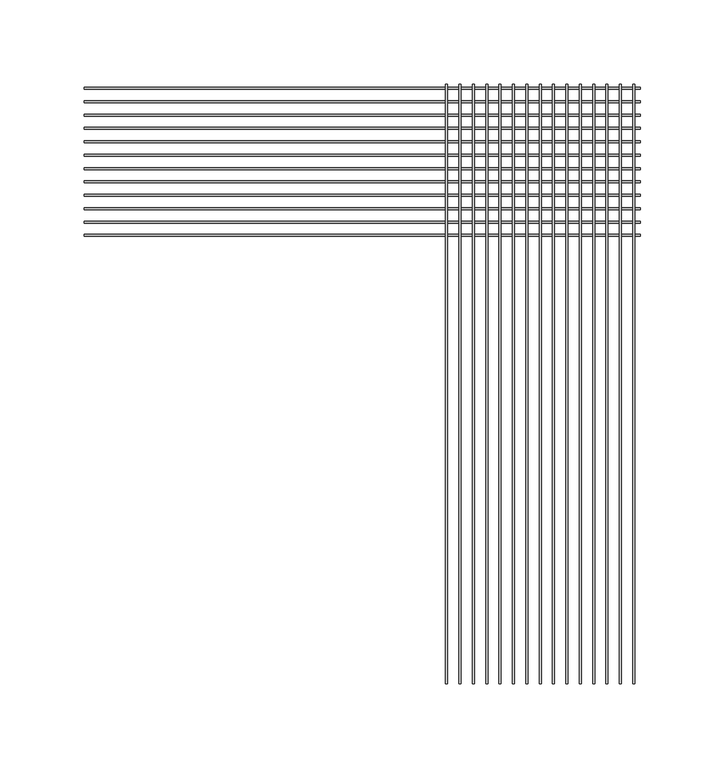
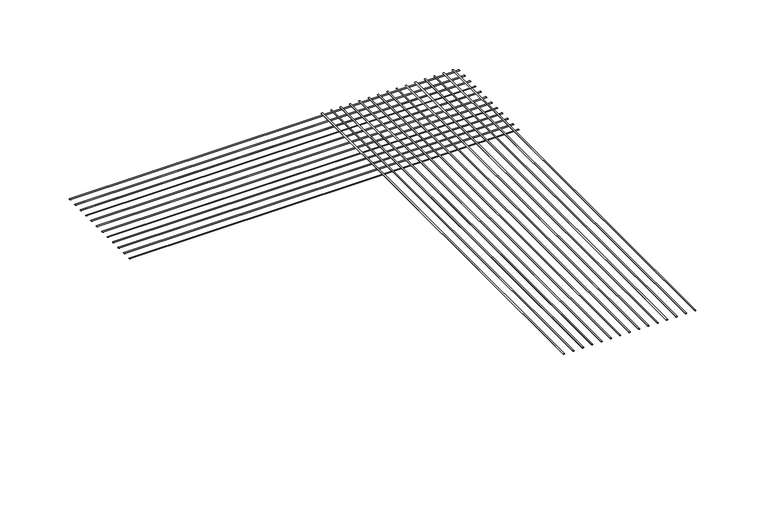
"""IFC4 building model written with IfcOpenShell, lengths in millimetres: proxy geometry, CRAi Generic Model Mesh Piece Face Based : CRAi Generic Model Mesh Piece Face Based."""

from ifc_helpers import new_model, si_unit, point, frame, origin, place, context, project, spatial, ellipse_curve, trimmed, source, transform, mapped, element, save
from ifc_brep_helpers import plane_surface, extruded_surface, advanced_brep


def generic_models_a7b0360c(model_context):
    return source(origin(), model_context, "Body", "AdvancedBrep", [
        advanced_brep(
        [(49.4109375, -177.8, -2.5796875), (50.6015625, -177.8, -2.5796875), (49.4109375, 177.8, -2.5796875), (50.6015625, 177.8, -2.5796875)],
        [
            (0, 1, ellipse_curve(frame((50.00625, -177.8, -2.5796875), z_axis=(0.0, -1.0, 0.0), x_axis=(1.0, 0.0, 0.0)), 0.5953125, 0.1984375)),
            (1, 0, ellipse_curve(frame((50.00625, -177.8, -2.5796875), z_axis=(0.0, -1.0, 0.0), x_axis=(1.0, 0.0, 0.0)), 0.5953125, 0.1984375)),
            (2, 3, ellipse_curve(frame((50.00625, 177.8, -2.5796875), z_axis=(0.0, 1.0, 0.0), x_axis=(1.0, 0.0, 0.0)), 0.5953125, 0.1984375)),
            (3, 2, ellipse_curve(frame((50.00625, 177.8, -2.5796875), z_axis=(0.0, 1.0, 0.0), x_axis=(1.0, 0.0, 0.0)), 0.5953125, 0.1984375)),
            (0, 2),
            (3, 1),
        ],
        [
            plane_surface(frame((50.00625, -177.8, -2.5796875), z_axis=(0.0, -1.0, 0.0), x_axis=(0.0, 0.0, 1.0))),
            plane_surface(frame((50.00625, 177.8, -2.5796875), z_axis=(0.0, 1.0, 0.0), x_axis=(0.0, 0.0, 1.0))),
            extruded_surface(trimmed(ellipse_curve(frame((50.00625, 177.8, -2.5796875), z_axis=(0.0, -1.0, 0.0), x_axis=(1.0, 0.0, 0.0)), 0.5953125, 0.1984375), [point((49.4109375, 177.8, -2.5796875))], [point((50.6015625, 177.8, -2.5796875))], True, "CARTESIAN"), (0.0, -355.6, 0.0), 355.6),
            extruded_surface(trimmed(ellipse_curve(frame((50.00625, 177.8, -2.5796875), z_axis=(0.0, -1.0, 0.0), x_axis=(1.0, 0.0, 0.0)), 0.5953125, 0.1984375), [point((50.6015625, 177.8, -2.5796875))], [point((49.4109375, 177.8, -2.5796875))], True, "CARTESIAN"), (0.0, -355.6, 0.0), 355.6),
        ],
        [
            (0, [[1, 2]]),
            (1, [[3, 4]]),
            (2, [[-1, 5, -4, 6]]),
            (3, [[-2, -6, -3, -5]]),
        ],
    ),
        advanced_brep(
        [(57.3484375, -177.8, -2.5796875), (58.5390625, -177.8, -2.5796875), (57.3484375, 177.8, -2.5796875), (58.5390625, 177.8, -2.5796875)],
        [
            (0, 1, ellipse_curve(frame((57.94375, -177.8, -2.5796875), z_axis=(0.0, -1.0, 0.0), x_axis=(1.0, 0.0, 0.0)), 0.5953125, 0.1984375)),
            (1, 0, ellipse_curve(frame((57.94375, -177.8, -2.5796875), z_axis=(0.0, -1.0, 0.0), x_axis=(1.0, 0.0, 0.0)), 0.5953125, 0.1984375)),
            (2, 3, ellipse_curve(frame((57.94375, 177.8, -2.5796875), z_axis=(0.0, 1.0, 0.0), x_axis=(1.0, 0.0, 0.0)), 0.5953125, 0.1984375)),
            (3, 2, ellipse_curve(frame((57.94375, 177.8, -2.5796875), z_axis=(0.0, 1.0, 0.0), x_axis=(1.0, 0.0, 0.0)), 0.5953125, 0.1984375)),
            (0, 2),
            (3, 1),
        ],
        [
            plane_surface(frame((57.94375, -177.8, -2.5796875), z_axis=(0.0, -1.0, 0.0), x_axis=(0.0, 0.0, 1.0))),
            plane_surface(frame((57.94375, 177.8, -2.5796875), z_axis=(0.0, 1.0, 0.0), x_axis=(0.0, 0.0, 1.0))),
            extruded_surface(trimmed(ellipse_curve(frame((57.94375, 177.8, -2.5796875), z_axis=(0.0, -1.0, 0.0), x_axis=(1.0, 0.0, 0.0)), 0.5953125, 0.1984375), [point((57.3484375, 177.8, -2.5796875))], [point((58.5390625, 177.8, -2.5796875))], True, "CARTESIAN"), (0.0, -355.6, 0.0), 355.6),
            extruded_surface(trimmed(ellipse_curve(frame((57.94375, 177.8, -2.5796875), z_axis=(0.0, -1.0, 0.0), x_axis=(1.0, 0.0, 0.0)), 0.5953125, 0.1984375), [point((58.5390625, 177.8, -2.5796875))], [point((57.3484375, 177.8, -2.5796875))], True, "CARTESIAN"), (0.0, -355.6, 0.0), 355.6),
        ],
        [
            (0, [[1, 2]]),
            (1, [[3, 4]]),
            (2, [[-1, 5, -4, 6]]),
            (3, [[-2, -6, -3, -5]]),
        ],
    ),
        advanced_brep(
        [(65.2859375, -177.8, -2.5796875), (66.4765625, -177.8, -2.5796875), (65.2859375, 177.8, -2.5796875), (66.4765625, 177.8, -2.5796875)],
        [
            (0, 1, ellipse_curve(frame((65.88125, -177.8, -2.5796875), z_axis=(0.0, -1.0, 0.0), x_axis=(1.0, 0.0, 0.0)), 0.5953125, 0.1984375)),
            (1, 0, ellipse_curve(frame((65.88125, -177.8, -2.5796875), z_axis=(0.0, -1.0, 0.0), x_axis=(1.0, 0.0, 0.0)), 0.5953125, 0.1984375)),
            (2, 3, ellipse_curve(frame((65.88125, 177.8, -2.5796875), z_axis=(0.0, 1.0, 0.0), x_axis=(1.0, 0.0, 0.0)), 0.5953125, 0.1984375)),
            (3, 2, ellipse_curve(frame((65.88125, 177.8, -2.5796875), z_axis=(0.0, 1.0, 0.0), x_axis=(1.0, 0.0, 0.0)), 0.5953125, 0.1984375)),
            (0, 2),
            (3, 1),
        ],
        [
            plane_surface(frame((65.88125, -177.8, -2.5796875), z_axis=(0.0, -1.0, 0.0), x_axis=(0.0, 0.0, 1.0))),
            plane_surface(frame((65.88125, 177.8, -2.5796875), z_axis=(0.0, 1.0, 0.0), x_axis=(0.0, 0.0, 1.0))),
            extruded_surface(trimmed(ellipse_curve(frame((65.88125, 177.8, -2.5796875), z_axis=(0.0, -1.0, 0.0), x_axis=(1.0, 0.0, 0.0)), 0.5953125, 0.1984375), [point((65.2859375, 177.8, -2.5796875))], [point((66.4765625, 177.8, -2.5796875))], True, "CARTESIAN"), (0.0, -355.6, 0.0), 355.6),
            extruded_surface(trimmed(ellipse_curve(frame((65.88125, 177.8, -2.5796875), z_axis=(0.0, -1.0, 0.0), x_axis=(1.0, 0.0, 0.0)), 0.5953125, 0.1984375), [point((66.4765625, 177.8, -2.5796875))], [point((65.2859375, 177.8, -2.5796875))], True, "CARTESIAN"), (0.0, -355.6, 0.0), 355.6),
        ],
        [
            (0, [[1, 2]]),
            (1, [[3, 4]]),
            (2, [[-1, 5, -4, 6]]),
            (3, [[-2, -6, -3, -5]]),
        ],
    ),
        advanced_brep(
        [(73.2234375, -177.8, -2.5796875), (74.4140625, -177.8, -2.5796875), (73.2234375, 177.8, -2.5796875), (74.4140625, 177.8, -2.5796875)],
        [
            (0, 1, ellipse_curve(frame((73.81875, -177.8, -2.5796875), z_axis=(0.0, -1.0, 0.0), x_axis=(1.0, 0.0, 0.0)), 0.5953125, 0.1984375)),
            (1, 0, ellipse_curve(frame((73.81875, -177.8, -2.5796875), z_axis=(0.0, -1.0, 0.0), x_axis=(1.0, 0.0, 0.0)), 0.5953125, 0.1984375)),
            (2, 3, ellipse_curve(frame((73.81875, 177.8, -2.5796875), z_axis=(0.0, 1.0, 0.0), x_axis=(1.0, 0.0, 0.0)), 0.5953125, 0.1984375)),
            (3, 2, ellipse_curve(frame((73.81875, 177.8, -2.5796875), z_axis=(0.0, 1.0, 0.0), x_axis=(1.0, 0.0, 0.0)), 0.5953125, 0.1984375)),
            (0, 2),
            (3, 1),
        ],
        [
            plane_surface(frame((73.81875, -177.8, -2.5796875), z_axis=(0.0, -1.0, 0.0), x_axis=(0.0, 0.0, 1.0))),
            plane_surface(frame((73.81875, 177.8, -2.5796875), z_axis=(0.0, 1.0, 0.0), x_axis=(0.0, 0.0, 1.0))),
            extruded_surface(trimmed(ellipse_curve(frame((73.81875, 177.8, -2.5796875), z_axis=(0.0, -1.0, 0.0), x_axis=(1.0, 0.0, 0.0)), 0.5953125, 0.1984375), [point((73.2234375, 177.8, -2.5796875))], [point((74.4140625, 177.8, -2.5796875))], True, "CARTESIAN"), (0.0, -355.6, 0.0), 355.6),
            extruded_surface(trimmed(ellipse_curve(frame((73.81875, 177.8, -2.5796875), z_axis=(0.0, -1.0, 0.0), x_axis=(1.0, 0.0, 0.0)), 0.5953125, 0.1984375), [point((74.4140625, 177.8, -2.5796875))], [point((73.2234375, 177.8, -2.5796875))], True, "CARTESIAN"), (0.0, -355.6, 0.0), 355.6),
        ],
        [
            (0, [[1, 2]]),
            (1, [[3, 4]]),
            (2, [[-1, 5, -4, 6]]),
            (3, [[-2, -6, -3, -5]]),
        ],
    ),
        advanced_brep(
        [(81.1609375, -177.8, -2.5796875), (82.3515625, -177.8, -2.5796875), (81.1609375, 177.8, -2.5796875), (82.3515625, 177.8, -2.5796875)],
        [
            (0, 1, ellipse_curve(frame((81.75625, -177.8, -2.5796875), z_axis=(0.0, -1.0, 0.0), x_axis=(1.0, 0.0, 0.0)), 0.5953125, 0.1984375)),
            (1, 0, ellipse_curve(frame((81.75625, -177.8, -2.5796875), z_axis=(0.0, -1.0, 0.0), x_axis=(1.0, 0.0, 0.0)), 0.5953125, 0.1984375)),
            (2, 3, ellipse_curve(frame((81.75625, 177.8, -2.5796875), z_axis=(0.0, 1.0, 0.0), x_axis=(1.0, 0.0, 0.0)), 0.5953125, 0.1984375)),
            (3, 2, ellipse_curve(frame((81.75625, 177.8, -2.5796875), z_axis=(0.0, 1.0, 0.0), x_axis=(1.0, 0.0, 0.0)), 0.5953125, 0.1984375)),
            (0, 2),
            (3, 1),
        ],
        [
            plane_surface(frame((81.75625, -177.8, -2.5796875), z_axis=(0.0, -1.0, 0.0), x_axis=(0.0, 0.0, 1.0))),
            plane_surface(frame((81.75625, 177.8, -2.5796875), z_axis=(0.0, 1.0, 0.0), x_axis=(0.0, 0.0, 1.0))),
            extruded_surface(trimmed(ellipse_curve(frame((81.75625, 177.8, -2.5796875), z_axis=(0.0, -1.0, 0.0), x_axis=(1.0, 0.0, 0.0)), 0.5953125, 0.1984375), [point((81.1609375, 177.8, -2.5796875))], [point((82.3515625, 177.8, -2.5796875))], True, "CARTESIAN"), (0.0, -355.6, 0.0), 355.6),
            extruded_surface(trimmed(ellipse_curve(frame((81.75625, 177.8, -2.5796875), z_axis=(0.0, -1.0, 0.0), x_axis=(1.0, 0.0, 0.0)), 0.5953125, 0.1984375), [point((82.3515625, 177.8, -2.5796875))], [point((81.1609375, 177.8, -2.5796875))], True, "CARTESIAN"), (0.0, -355.6, 0.0), 355.6),
        ],
        [
            (0, [[1, 2]]),
            (1, [[3, 4]]),
            (2, [[-1, 5, -4, 6]]),
            (3, [[-2, -6, -3, -5]]),
        ],
    ),
        advanced_brep(
        [(89.0984375, -177.8, -2.5796875), (90.2890625, -177.8, -2.5796875), (89.0984375, 177.8, -2.5796875), (90.2890625, 177.8, -2.5796875)],
        [
            (0, 1, ellipse_curve(frame((89.69375, -177.8, -2.5796875), z_axis=(0.0, -1.0, 0.0), x_axis=(1.0, 0.0, 0.0)), 0.5953125, 0.1984375)),
            (1, 0, ellipse_curve(frame((89.69375, -177.8, -2.5796875), z_axis=(0.0, -1.0, 0.0), x_axis=(1.0, 0.0, 0.0)), 0.5953125, 0.1984375)),
            (2, 3, ellipse_curve(frame((89.69375, 177.8, -2.5796875), z_axis=(0.0, 1.0, 0.0), x_axis=(1.0, 0.0, 0.0)), 0.5953125, 0.1984375)),
            (3, 2, ellipse_curve(frame((89.69375, 177.8, -2.5796875), z_axis=(0.0, 1.0, 0.0), x_axis=(1.0, 0.0, 0.0)), 0.5953125, 0.1984375)),
            (0, 2),
            (3, 1),
        ],
        [
            plane_surface(frame((89.69375, -177.8, -2.5796875), z_axis=(0.0, -1.0, 0.0), x_axis=(0.0, 0.0, 1.0))),
            plane_surface(frame((89.69375, 177.8, -2.5796875), z_axis=(0.0, 1.0, 0.0), x_axis=(0.0, 0.0, 1.0))),
            extruded_surface(trimmed(ellipse_curve(frame((89.69375, 177.8, -2.5796875), z_axis=(0.0, -1.0, 0.0), x_axis=(1.0, 0.0, 0.0)), 0.5953125, 0.1984375), [point((89.0984375, 177.8, -2.5796875))], [point((90.2890625, 177.8, -2.5796875))], True, "CARTESIAN"), (0.0, -355.6, 0.0), 355.6),
            extruded_surface(trimmed(ellipse_curve(frame((89.69375, 177.8, -2.5796875), z_axis=(0.0, -1.0, 0.0), x_axis=(1.0, 0.0, 0.0)), 0.5953125, 0.1984375), [point((90.2890625, 177.8, -2.5796875))], [point((89.0984375, 177.8, -2.5796875))], True, "CARTESIAN"), (0.0, -355.6, 0.0), 355.6),
        ],
        [
            (0, [[1, 2]]),
            (1, [[3, 4]]),
            (2, [[-1, 5, -4, 6]]),
            (3, [[-2, -6, -3, -5]]),
        ],
    ),
        advanced_brep(
        [(97.0359375, -177.8, -2.5796875), (98.2265625, -177.8, -2.5796875), (97.0359375, 177.8, -2.5796875), (98.2265625, 177.8, -2.5796875)],
        [
            (0, 1, ellipse_curve(frame((97.63125, -177.8, -2.5796875), z_axis=(0.0, -1.0, 0.0), x_axis=(1.0, 0.0, 0.0)), 0.5953125, 0.1984375)),
            (1, 0, ellipse_curve(frame((97.63125, -177.8, -2.5796875), z_axis=(0.0, -1.0, 0.0), x_axis=(1.0, 0.0, 0.0)), 0.5953125, 0.1984375)),
            (2, 3, ellipse_curve(frame((97.63125, 177.8, -2.5796875), z_axis=(0.0, 1.0, 0.0), x_axis=(1.0, 0.0, 0.0)), 0.5953125, 0.1984375)),
            (3, 2, ellipse_curve(frame((97.63125, 177.8, -2.5796875), z_axis=(0.0, 1.0, 0.0), x_axis=(1.0, 0.0, 0.0)), 0.5953125, 0.1984375)),
            (0, 2),
            (3, 1),
        ],
        [
            plane_surface(frame((97.63125, -177.8, -2.5796875), z_axis=(0.0, -1.0, 0.0), x_axis=(0.0, 0.0, 1.0))),
            plane_surface(frame((97.63125, 177.8, -2.5796875), z_axis=(0.0, 1.0, 0.0), x_axis=(0.0, 0.0, 1.0))),
            extruded_surface(trimmed(ellipse_curve(frame((97.63125, 177.8, -2.5796875), z_axis=(0.0, -1.0, 0.0), x_axis=(1.0, 0.0, 0.0)), 0.5953125, 0.1984375), [point((97.0359375, 177.8, -2.5796875))], [point((98.2265625, 177.8, -2.5796875))], True, "CARTESIAN"), (0.0, -355.6, 0.0), 355.6),
            extruded_surface(trimmed(ellipse_curve(frame((97.63125, 177.8, -2.5796875), z_axis=(0.0, -1.0, 0.0), x_axis=(1.0, 0.0, 0.0)), 0.5953125, 0.1984375), [point((98.2265625, 177.8, -2.5796875))], [point((97.0359375, 177.8, -2.5796875))], True, "CARTESIAN"), (0.0, -355.6, 0.0), 355.6),
        ],
        [
            (0, [[1, 2]]),
            (1, [[3, 4]]),
            (2, [[-1, 5, -4, 6]]),
            (3, [[-2, -6, -3, -5]]),
        ],
    ),
        advanced_brep(
        [(104.9734375, -177.8, -2.5796875), (106.1640625, -177.8, -2.5796875), (104.9734375, 177.8, -2.5796875), (106.1640625, 177.8, -2.5796875)],
        [
            (0, 1, ellipse_curve(frame((105.56875, -177.8, -2.5796875), z_axis=(0.0, -1.0, 0.0), x_axis=(1.0, 0.0, 0.0)), 0.5953125, 0.1984375)),
            (1, 0, ellipse_curve(frame((105.56875, -177.8, -2.5796875), z_axis=(0.0, -1.0, 0.0), x_axis=(1.0, 0.0, 0.0)), 0.5953125, 0.1984375)),
            (2, 3, ellipse_curve(frame((105.56875, 177.8, -2.5796875), z_axis=(0.0, 1.0, 0.0), x_axis=(1.0, 0.0, 0.0)), 0.5953125, 0.1984375)),
            (3, 2, ellipse_curve(frame((105.56875, 177.8, -2.5796875), z_axis=(0.0, 1.0, 0.0), x_axis=(1.0, 0.0, 0.0)), 0.5953125, 0.1984375)),
            (0, 2),
            (3, 1),
        ],
        [
            plane_surface(frame((105.56875, -177.8, -2.5796875), z_axis=(0.0, -1.0, 0.0), x_axis=(0.0, 0.0, 1.0))),
            plane_surface(frame((105.56875, 177.8, -2.5796875), z_axis=(0.0, 1.0, 0.0), x_axis=(0.0, 0.0, 1.0))),
            extruded_surface(trimmed(ellipse_curve(frame((105.56875, 177.8, -2.5796875), z_axis=(0.0, -1.0, 0.0), x_axis=(1.0, 0.0, 0.0)), 0.5953125, 0.1984375), [point((104.9734375, 177.8, -2.5796875))], [point((106.1640625, 177.8, -2.5796875))], True, "CARTESIAN"), (0.0, -355.6, 0.0), 355.6),
            extruded_surface(trimmed(ellipse_curve(frame((105.56875, 177.8, -2.5796875), z_axis=(0.0, -1.0, 0.0), x_axis=(1.0, 0.0, 0.0)), 0.5953125, 0.1984375), [point((106.1640625, 177.8, -2.5796875))], [point((104.9734375, 177.8, -2.5796875))], True, "CARTESIAN"), (0.0, -355.6, 0.0), 355.6),
        ],
        [
            (0, [[1, 2]]),
            (1, [[3, 4]]),
            (2, [[-1, 5, -4, 6]]),
            (3, [[-2, -6, -3, -5]]),
        ],
    ),
        advanced_brep(
        [(112.9109375, -177.8, -2.5796875), (114.1015625, -177.8, -2.5796875), (112.9109375, 177.8, -2.5796875), (114.1015625, 177.8, -2.5796875)],
        [
            (0, 1, ellipse_curve(frame((113.50625, -177.8, -2.5796875), z_axis=(0.0, -1.0, 0.0), x_axis=(1.0, 0.0, 0.0)), 0.5953125, 0.1984375)),
            (1, 0, ellipse_curve(frame((113.50625, -177.8, -2.5796875), z_axis=(0.0, -1.0, 0.0), x_axis=(1.0, 0.0, 0.0)), 0.5953125, 0.1984375)),
            (2, 3, ellipse_curve(frame((113.50625, 177.8, -2.5796875), z_axis=(0.0, 1.0, 0.0), x_axis=(1.0, 0.0, 0.0)), 0.5953125, 0.1984375)),
            (3, 2, ellipse_curve(frame((113.50625, 177.8, -2.5796875), z_axis=(0.0, 1.0, 0.0), x_axis=(1.0, 0.0, 0.0)), 0.5953125, 0.1984375)),
            (0, 2),
            (3, 1),
        ],
        [
            plane_surface(frame((113.50625, -177.8, -2.5796875), z_axis=(0.0, -1.0, 0.0), x_axis=(0.0, 0.0, 1.0))),
            plane_surface(frame((113.50625, 177.8, -2.5796875), z_axis=(0.0, 1.0, 0.0), x_axis=(0.0, 0.0, 1.0))),
            extruded_surface(trimmed(ellipse_curve(frame((113.50625, 177.8, -2.5796875), z_axis=(0.0, -1.0, 0.0), x_axis=(1.0, 0.0, 0.0)), 0.5953125, 0.1984375), [point((112.9109375, 177.8, -2.5796875))], [point((114.1015625, 177.8, -2.5796875))], True, "CARTESIAN"), (0.0, -355.6, 0.0), 355.6),
            extruded_surface(trimmed(ellipse_curve(frame((113.50625, 177.8, -2.5796875), z_axis=(0.0, -1.0, 0.0), x_axis=(1.0, 0.0, 0.0)), 0.5953125, 0.1984375), [point((114.1015625, 177.8, -2.5796875))], [point((112.9109375, 177.8, -2.5796875))], True, "CARTESIAN"), (0.0, -355.6, 0.0), 355.6),
        ],
        [
            (0, [[1, 2]]),
            (1, [[3, 4]]),
            (2, [[-1, 5, -4, 6]]),
            (3, [[-2, -6, -3, -5]]),
        ],
    ),
        advanced_brep(
        [(120.8484375, -177.8, -2.5796875), (122.0390625, -177.8, -2.5796875), (120.8484375, 177.8, -2.5796875), (122.0390625, 177.8, -2.5796875)],
        [
            (0, 1, ellipse_curve(frame((121.44375, -177.8, -2.5796875), z_axis=(0.0, -1.0, 0.0), x_axis=(1.0, 0.0, 0.0)), 0.5953125, 0.1984375)),
            (1, 0, ellipse_curve(frame((121.44375, -177.8, -2.5796875), z_axis=(0.0, -1.0, 0.0), x_axis=(1.0, 0.0, 0.0)), 0.5953125, 0.1984375)),
            (2, 3, ellipse_curve(frame((121.44375, 177.8, -2.5796875), z_axis=(0.0, 1.0, 0.0), x_axis=(1.0, 0.0, 0.0)), 0.5953125, 0.1984375)),
            (3, 2, ellipse_curve(frame((121.44375, 177.8, -2.5796875), z_axis=(0.0, 1.0, 0.0), x_axis=(1.0, 0.0, 0.0)), 0.5953125, 0.1984375)),
            (0, 2),
            (3, 1),
        ],
        [
            plane_surface(frame((121.44375, -177.8, -2.5796875), z_axis=(0.0, -1.0, 0.0), x_axis=(0.0, 0.0, 1.0))),
            plane_surface(frame((121.44375, 177.8, -2.5796875), z_axis=(0.0, 1.0, 0.0), x_axis=(0.0, 0.0, 1.0))),
            extruded_surface(trimmed(ellipse_curve(frame((121.44375, 177.8, -2.5796875), z_axis=(0.0, -1.0, 0.0), x_axis=(1.0, 0.0, 0.0)), 0.5953125, 0.1984375), [point((120.8484375, 177.8, -2.5796875))], [point((122.0390625, 177.8, -2.5796875))], True, "CARTESIAN"), (0.0, -355.6, 0.0), 355.6),
            extruded_surface(trimmed(ellipse_curve(frame((121.44375, 177.8, -2.5796875), z_axis=(0.0, -1.0, 0.0), x_axis=(1.0, 0.0, 0.0)), 0.5953125, 0.1984375), [point((122.0390625, 177.8, -2.5796875))], [point((120.8484375, 177.8, -2.5796875))], True, "CARTESIAN"), (0.0, -355.6, 0.0), 355.6),
        ],
        [
            (0, [[1, 2]]),
            (1, [[3, 4]]),
            (2, [[-1, 5, -4, 6]]),
            (3, [[-2, -6, -3, -5]]),
        ],
    ),
        advanced_brep(
        [(128.7859375, -177.8, -2.5796875), (129.9765625, -177.8, -2.5796875), (128.7859375, 177.8, -2.5796875), (129.9765625, 177.8, -2.5796875)],
        [
            (0, 1, ellipse_curve(frame((129.38125, -177.8, -2.5796875), z_axis=(0.0, -1.0, 0.0), x_axis=(1.0, 0.0, 0.0)), 0.5953125, 0.1984375)),
            (1, 0, ellipse_curve(frame((129.38125, -177.8, -2.5796875), z_axis=(0.0, -1.0, 0.0), x_axis=(1.0, 0.0, 0.0)), 0.5953125, 0.1984375)),
            (2, 3, ellipse_curve(frame((129.38125, 177.8, -2.5796875), z_axis=(0.0, 1.0, 0.0), x_axis=(1.0, 0.0, 0.0)), 0.5953125, 0.1984375)),
            (3, 2, ellipse_curve(frame((129.38125, 177.8, -2.5796875), z_axis=(0.0, 1.0, 0.0), x_axis=(1.0, 0.0, 0.0)), 0.5953125, 0.1984375)),
            (0, 2),
            (3, 1),
        ],
        [
            plane_surface(frame((129.38125, -177.8, -2.5796875), z_axis=(0.0, -1.0, 0.0), x_axis=(0.0, 0.0, 1.0))),
            plane_surface(frame((129.38125, 177.8, -2.5796875), z_axis=(0.0, 1.0, 0.0), x_axis=(0.0, 0.0, 1.0))),
            extruded_surface(trimmed(ellipse_curve(frame((129.38125, 177.8, -2.5796875), z_axis=(0.0, -1.0, 0.0), x_axis=(1.0, 0.0, 0.0)), 0.5953125, 0.1984375), [point((128.7859375, 177.8, -2.5796875))], [point((129.9765625, 177.8, -2.5796875))], True, "CARTESIAN"), (0.0, -355.6, 0.0), 355.6),
            extruded_surface(trimmed(ellipse_curve(frame((129.38125, 177.8, -2.5796875), z_axis=(0.0, -1.0, 0.0), x_axis=(1.0, 0.0, 0.0)), 0.5953125, 0.1984375), [point((129.9765625, 177.8, -2.5796875))], [point((128.7859375, 177.8, -2.5796875))], True, "CARTESIAN"), (0.0, -355.6, 0.0), 355.6),
        ],
        [
            (0, [[1, 2]]),
            (1, [[3, 4]]),
            (2, [[-1, 5, -4, 6]]),
            (3, [[-2, -6, -3, -5]]),
        ],
    ),
        advanced_brep(
        [(136.7234375, -177.8, -2.5796875), (137.9140625, -177.8, -2.5796875), (136.7234375, 177.8, -2.5796875), (137.9140625, 177.8, -2.5796875)],
        [
            (0, 1, ellipse_curve(frame((137.31875, -177.8, -2.5796875), z_axis=(0.0, -1.0, 0.0), x_axis=(1.0, 0.0, 0.0)), 0.5953125, 0.1984375)),
            (1, 0, ellipse_curve(frame((137.31875, -177.8, -2.5796875), z_axis=(0.0, -1.0, 0.0), x_axis=(1.0, 0.0, 0.0)), 0.5953125, 0.1984375)),
            (2, 3, ellipse_curve(frame((137.31875, 177.8, -2.5796875), z_axis=(0.0, 1.0, 0.0), x_axis=(1.0, 0.0, 0.0)), 0.5953125, 0.1984375)),
            (3, 2, ellipse_curve(frame((137.31875, 177.8, -2.5796875), z_axis=(0.0, 1.0, 0.0), x_axis=(1.0, 0.0, 0.0)), 0.5953125, 0.1984375)),
            (0, 2),
            (3, 1),
        ],
        [
            plane_surface(frame((137.31875, -177.8, -2.5796875), z_axis=(0.0, -1.0, 0.0), x_axis=(0.0, 0.0, 1.0))),
            plane_surface(frame((137.31875, 177.8, -2.5796875), z_axis=(0.0, 1.0, 0.0), x_axis=(0.0, 0.0, 1.0))),
            extruded_surface(trimmed(ellipse_curve(frame((137.31875, 177.8, -2.5796875), z_axis=(0.0, -1.0, 0.0), x_axis=(1.0, 0.0, 0.0)), 0.5953125, 0.1984375), [point((136.7234375, 177.8, -2.5796875))], [point((137.9140625, 177.8, -2.5796875))], True, "CARTESIAN"), (0.0, -355.6, 0.0), 355.6),
            extruded_surface(trimmed(ellipse_curve(frame((137.31875, 177.8, -2.5796875), z_axis=(0.0, -1.0, 0.0), x_axis=(1.0, 0.0, 0.0)), 0.5953125, 0.1984375), [point((137.9140625, 177.8, -2.5796875))], [point((136.7234375, 177.8, -2.5796875))], True, "CARTESIAN"), (0.0, -355.6, 0.0), 355.6),
        ],
        [
            (0, [[1, 2]]),
            (1, [[3, 4]]),
            (2, [[-1, 5, -4, 6]]),
            (3, [[-2, -6, -3, -5]]),
        ],
    ),
        advanced_brep(
        [(144.6609375, -177.8, -2.5796875), (145.8515625, -177.8, -2.5796875), (144.6609375, 177.8, -2.5796875), (145.8515625, 177.8, -2.5796875)],
        [
            (0, 1, ellipse_curve(frame((145.25625, -177.8, -2.5796875), z_axis=(0.0, -1.0, 0.0), x_axis=(1.0, 0.0, 0.0)), 0.5953125, 0.1984375)),
            (1, 0, ellipse_curve(frame((145.25625, -177.8, -2.5796875), z_axis=(0.0, -1.0, 0.0), x_axis=(1.0, 0.0, 0.0)), 0.5953125, 0.1984375)),
            (2, 3, ellipse_curve(frame((145.25625, 177.8, -2.5796875), z_axis=(0.0, 1.0, 0.0), x_axis=(1.0, 0.0, 0.0)), 0.5953125, 0.1984375)),
            (3, 2, ellipse_curve(frame((145.25625, 177.8, -2.5796875), z_axis=(0.0, 1.0, 0.0), x_axis=(1.0, 0.0, 0.0)), 0.5953125, 0.1984375)),
            (0, 2),
            (3, 1),
        ],
        [
            plane_surface(frame((145.25625, -177.8, -2.5796875), z_axis=(0.0, -1.0, 0.0), x_axis=(0.0, 0.0, 1.0))),
            plane_surface(frame((145.25625, 177.8, -2.5796875), z_axis=(0.0, 1.0, 0.0), x_axis=(0.0, 0.0, 1.0))),
            extruded_surface(trimmed(ellipse_curve(frame((145.25625, 177.8, -2.5796875), z_axis=(0.0, -1.0, 0.0), x_axis=(1.0, 0.0, 0.0)), 0.5953125, 0.1984375), [point((144.6609375, 177.8, -2.5796875))], [point((145.8515625, 177.8, -2.5796875))], True, "CARTESIAN"), (0.0, -355.6, 0.0), 355.6),
            extruded_surface(trimmed(ellipse_curve(frame((145.25625, 177.8, -2.5796875), z_axis=(0.0, -1.0, 0.0), x_axis=(1.0, 0.0, 0.0)), 0.5953125, 0.1984375), [point((145.8515625, 177.8, -2.5796875))], [point((144.6609375, 177.8, -2.5796875))], True, "CARTESIAN"), (0.0, -355.6, 0.0), 355.6),
        ],
        [
            (0, [[1, 2]]),
            (1, [[3, 4]]),
            (2, [[-1, 5, -4, 6]]),
            (3, [[-2, -6, -3, -5]]),
        ],
    ),
        advanced_brep(
        [(152.5984375, -177.8, -2.5796875), (153.7890625, -177.8, -2.5796875), (152.5984375, 177.8, -2.5796875), (153.7890625, 177.8, -2.5796875)],
        [
            (0, 1, ellipse_curve(frame((153.19375, -177.8, -2.5796875), z_axis=(0.0, -1.0, 0.0), x_axis=(1.0, 0.0, 0.0)), 0.5953125, 0.1984375)),
            (1, 0, ellipse_curve(frame((153.19375, -177.8, -2.5796875), z_axis=(0.0, -1.0, 0.0), x_axis=(1.0, 0.0, 0.0)), 0.5953125, 0.1984375)),
            (2, 3, ellipse_curve(frame((153.19375, 177.8, -2.5796875), z_axis=(0.0, 1.0, 0.0), x_axis=(1.0, 0.0, 0.0)), 0.5953125, 0.1984375)),
            (3, 2, ellipse_curve(frame((153.19375, 177.8, -2.5796875), z_axis=(0.0, 1.0, 0.0), x_axis=(1.0, 0.0, 0.0)), 0.5953125, 0.1984375)),
            (0, 2),
            (3, 1),
        ],
        [
            plane_surface(frame((153.19375, -177.8, -2.5796875), z_axis=(0.0, -1.0, 0.0), x_axis=(0.0, 0.0, 1.0))),
            plane_surface(frame((153.19375, 177.8, -2.5796875), z_axis=(0.0, 1.0, 0.0), x_axis=(0.0, 0.0, 1.0))),
            extruded_surface(trimmed(ellipse_curve(frame((153.19375, 177.8, -2.5796875), z_axis=(0.0, -1.0, 0.0), x_axis=(1.0, 0.0, 0.0)), 0.5953125, 0.1984375), [point((152.5984375, 177.8, -2.5796875))], [point((153.7890625, 177.8, -2.5796875))], True, "CARTESIAN"), (0.0, -355.6, 0.0), 355.6),
            extruded_surface(trimmed(ellipse_curve(frame((153.19375, 177.8, -2.5796875), z_axis=(0.0, -1.0, 0.0), x_axis=(1.0, 0.0, 0.0)), 0.5953125, 0.1984375), [point((153.7890625, 177.8, -2.5796875))], [point((152.5984375, 177.8, -2.5796875))], True, "CARTESIAN"), (0.0, -355.6, 0.0), 355.6),
        ],
        [
            (0, [[1, 2]]),
            (1, [[3, 4]]),
            (2, [[-1, 5, -4, 6]]),
            (3, [[-2, -6, -3, -5]]),
        ],
    ),
        advanced_brep(
        [(160.5359375, -177.8, -2.5796875), (161.7265625, -177.8, -2.5796875), (160.5359375, 177.8, -2.5796875), (161.7265625, 177.8, -2.5796875)],
        [
            (0, 1, ellipse_curve(frame((161.13125, -177.8, -2.5796875), z_axis=(0.0, -1.0, 0.0), x_axis=(1.0, 0.0, 0.0)), 0.5953125, 0.1984375)),
            (1, 0, ellipse_curve(frame((161.13125, -177.8, -2.5796875), z_axis=(0.0, -1.0, 0.0), x_axis=(1.0, 0.0, 0.0)), 0.5953125, 0.1984375)),
            (2, 3, ellipse_curve(frame((161.13125, 177.8, -2.5796875), z_axis=(0.0, 1.0, 0.0), x_axis=(1.0, 0.0, 0.0)), 0.5953125, 0.1984375)),
            (3, 2, ellipse_curve(frame((161.13125, 177.8, -2.5796875), z_axis=(0.0, 1.0, 0.0), x_axis=(1.0, 0.0, 0.0)), 0.5953125, 0.1984375)),
            (0, 2),
            (3, 1),
        ],
        [
            plane_surface(frame((161.13125, -177.8, -2.5796875), z_axis=(0.0, -1.0, 0.0), x_axis=(0.0, 0.0, 1.0))),
            plane_surface(frame((161.13125, 177.8, -2.5796875), z_axis=(0.0, 1.0, 0.0), x_axis=(0.0, 0.0, 1.0))),
            extruded_surface(trimmed(ellipse_curve(frame((161.13125, 177.8, -2.5796875), z_axis=(0.0, -1.0, 0.0), x_axis=(1.0, 0.0, 0.0)), 0.5953125, 0.1984375), [point((160.5359375, 177.8, -2.5796875))], [point((161.7265625, 177.8, -2.5796875))], True, "CARTESIAN"), (0.0, -355.6, 0.0), 355.6),
            extruded_surface(trimmed(ellipse_curve(frame((161.13125, 177.8, -2.5796875), z_axis=(0.0, -1.0, 0.0), x_axis=(1.0, 0.0, 0.0)), 0.5953125, 0.1984375), [point((161.7265625, 177.8, -2.5796875))], [point((160.5359375, 177.8, -2.5796875))], True, "CARTESIAN"), (0.0, -355.6, 0.0), 355.6),
        ],
        [
            (0, [[1, 2]]),
            (1, [[3, 4]]),
            (2, [[-1, 5, -4, 6]]),
            (3, [[-2, -6, -3, -5]]),
        ],
    ),
        advanced_brep(
        [(-165.1, 176.0140625, -2.9765625), (-165.1, 174.8234375, -2.9765625), (165.1, 176.0140625, -2.9765625), (165.1, 174.8234375, -2.9765625)],
        [
            (0, 1, ellipse_curve(frame((-165.1, 175.41875, -2.9765625), z_axis=(-1.0, 0.0, 0.0), x_axis=(0.0, -1.0, 0.0)), 0.5953125, 0.1984375)),
            (1, 0, ellipse_curve(frame((-165.1, 175.41875, -2.9765625), z_axis=(-1.0, 0.0, 0.0), x_axis=(0.0, -1.0, 0.0)), 0.5953125, 0.1984375)),
            (2, 3, ellipse_curve(frame((165.1, 175.41875, -2.9765625), z_axis=(1.0, 0.0, 0.0), x_axis=(0.0, -1.0, 0.0)), 0.5953125, 0.1984375)),
            (3, 2, ellipse_curve(frame((165.1, 175.41875, -2.9765625), z_axis=(1.0, 0.0, 0.0), x_axis=(0.0, -1.0, 0.0)), 0.5953125, 0.1984375)),
            (0, 2),
            (3, 1),
        ],
        [
            plane_surface(frame((-165.1, 175.41875, -2.9765625), z_axis=(-1.0, 0.0, 0.0), x_axis=(0.0, 0.0, 1.0))),
            plane_surface(frame((165.1, 175.41875, -2.9765625), z_axis=(1.0, 0.0, 0.0), x_axis=(0.0, 0.0, 1.0))),
            extruded_surface(trimmed(ellipse_curve(frame((165.1, 175.41875, -2.9765625), z_axis=(-1.0, 0.0, 0.0), x_axis=(0.0, -1.0, 0.0)), 0.5953125, 0.1984375), [point((165.1, 176.0140625, -2.9765625))], [point((165.1, 174.8234375, -2.9765625))], True, "CARTESIAN"), (-330.2, 0.0, 0.0), 330.2),
            extruded_surface(trimmed(ellipse_curve(frame((165.1, 175.41875, -2.9765625), z_axis=(-1.0, 0.0, 0.0), x_axis=(0.0, -1.0, 0.0)), 0.5953125, 0.1984375), [point((165.1, 174.8234375, -2.9765625))], [point((165.1, 176.0140625, -2.9765625))], True, "CARTESIAN"), (-330.2, 0.0, 0.0), 330.2),
        ],
        [
            (0, [[1, 2]]),
            (1, [[3, 4]]),
            (2, [[-1, 5, -4, 6]]),
            (3, [[-2, -6, -3, -5]]),
        ],
    ),
        advanced_brep(
        [(-165.1, 168.0765625, -2.9765625), (-165.1, 166.8859375, -2.9765625), (165.1, 168.0765625, -2.9765625), (165.1, 166.8859375, -2.9765625)],
        [
            (0, 1, ellipse_curve(frame((-165.1, 167.48125, -2.9765625), z_axis=(-1.0, 0.0, 0.0), x_axis=(0.0, -1.0, 0.0)), 0.5953125, 0.1984375)),
            (1, 0, ellipse_curve(frame((-165.1, 167.48125, -2.9765625), z_axis=(-1.0, 0.0, 0.0), x_axis=(0.0, -1.0, 0.0)), 0.5953125, 0.1984375)),
            (2, 3, ellipse_curve(frame((165.1, 167.48125, -2.9765625), z_axis=(1.0, 0.0, 0.0), x_axis=(0.0, -1.0, 0.0)), 0.5953125, 0.1984375)),
            (3, 2, ellipse_curve(frame((165.1, 167.48125, -2.9765625), z_axis=(1.0, 0.0, 0.0), x_axis=(0.0, -1.0, 0.0)), 0.5953125, 0.1984375)),
            (0, 2),
            (3, 1),
        ],
        [
            plane_surface(frame((-165.1, 167.48125, -2.9765625), z_axis=(-1.0, 0.0, 0.0), x_axis=(0.0, 0.0, 1.0))),
            plane_surface(frame((165.1, 167.48125, -2.9765625), z_axis=(1.0, 0.0, 0.0), x_axis=(0.0, 0.0, 1.0))),
            extruded_surface(trimmed(ellipse_curve(frame((165.1, 167.48125, -2.9765625), z_axis=(-1.0, 0.0, 0.0), x_axis=(0.0, -1.0, 0.0)), 0.5953125, 0.1984375), [point((165.1, 168.0765625, -2.9765625))], [point((165.1, 166.8859375, -2.9765625))], True, "CARTESIAN"), (-330.2, 0.0, 0.0), 330.2),
            extruded_surface(trimmed(ellipse_curve(frame((165.1, 167.48125, -2.9765625), z_axis=(-1.0, 0.0, 0.0), x_axis=(0.0, -1.0, 0.0)), 0.5953125, 0.1984375), [point((165.1, 166.8859375, -2.9765625))], [point((165.1, 168.0765625, -2.9765625))], True, "CARTESIAN"), (-330.2, 0.0, 0.0), 330.2),
        ],
        [
            (0, [[1, 2]]),
            (1, [[3, 4]]),
            (2, [[-1, 5, -4, 6]]),
            (3, [[-2, -6, -3, -5]]),
        ],
    ),
        advanced_brep(
        [(-165.1, 160.1390625, -2.9765625), (-165.1, 158.9484375, -2.9765625), (165.1, 160.1390625, -2.9765625), (165.1, 158.9484375, -2.9765625)],
        [
            (0, 1, ellipse_curve(frame((-165.1, 159.54375, -2.9765625), z_axis=(-1.0, 0.0, 0.0), x_axis=(0.0, -1.0, 0.0)), 0.5953125, 0.1984375)),
            (1, 0, ellipse_curve(frame((-165.1, 159.54375, -2.9765625), z_axis=(-1.0, 0.0, 0.0), x_axis=(0.0, -1.0, 0.0)), 0.5953125, 0.1984375)),
            (2, 3, ellipse_curve(frame((165.1, 159.54375, -2.9765625), z_axis=(1.0, 0.0, 0.0), x_axis=(0.0, -1.0, 0.0)), 0.5953125, 0.1984375)),
            (3, 2, ellipse_curve(frame((165.1, 159.54375, -2.9765625), z_axis=(1.0, 0.0, 0.0), x_axis=(0.0, -1.0, 0.0)), 0.5953125, 0.1984375)),
            (0, 2),
            (3, 1),
        ],
        [
            plane_surface(frame((-165.1, 159.54375, -2.9765625), z_axis=(-1.0, 0.0, 0.0), x_axis=(0.0, 0.0, 1.0))),
            plane_surface(frame((165.1, 159.54375, -2.9765625), z_axis=(1.0, 0.0, 0.0), x_axis=(0.0, 0.0, 1.0))),
            extruded_surface(trimmed(ellipse_curve(frame((165.1, 159.54375, -2.9765625), z_axis=(-1.0, 0.0, 0.0), x_axis=(0.0, -1.0, 0.0)), 0.5953125, 0.1984375), [point((165.1, 160.1390625, -2.9765625))], [point((165.1, 158.9484375, -2.9765625))], True, "CARTESIAN"), (-330.2, 0.0, 0.0), 330.2),
            extruded_surface(trimmed(ellipse_curve(frame((165.1, 159.54375, -2.9765625), z_axis=(-1.0, 0.0, 0.0), x_axis=(0.0, -1.0, 0.0)), 0.5953125, 0.1984375), [point((165.1, 158.9484375, -2.9765625))], [point((165.1, 160.1390625, -2.9765625))], True, "CARTESIAN"), (-330.2, 0.0, 0.0), 330.2),
        ],
        [
            (0, [[1, 2]]),
            (1, [[3, 4]]),
            (2, [[-1, 5, -4, 6]]),
            (3, [[-2, -6, -3, -5]]),
        ],
    ),
        advanced_brep(
        [(-165.1, 152.2015625, -2.9765625), (-165.1, 151.0109375, -2.9765625), (165.1, 152.2015625, -2.9765625), (165.1, 151.0109375, -2.9765625)],
        [
            (0, 1, ellipse_curve(frame((-165.1, 151.60625, -2.9765625), z_axis=(-1.0, 0.0, 0.0), x_axis=(0.0, -1.0, 0.0)), 0.5953125, 0.1984375)),
            (1, 0, ellipse_curve(frame((-165.1, 151.60625, -2.9765625), z_axis=(-1.0, 0.0, 0.0), x_axis=(0.0, -1.0, 0.0)), 0.5953125, 0.1984375)),
            (2, 3, ellipse_curve(frame((165.1, 151.60625, -2.9765625), z_axis=(1.0, 0.0, 0.0), x_axis=(0.0, -1.0, 0.0)), 0.5953125, 0.1984375)),
            (3, 2, ellipse_curve(frame((165.1, 151.60625, -2.9765625), z_axis=(1.0, 0.0, 0.0), x_axis=(0.0, -1.0, 0.0)), 0.5953125, 0.1984375)),
            (0, 2),
            (3, 1),
        ],
        [
            plane_surface(frame((-165.1, 151.60625, -2.9765625), z_axis=(-1.0, 0.0, 0.0), x_axis=(0.0, 0.0, 1.0))),
            plane_surface(frame((165.1, 151.60625, -2.9765625), z_axis=(1.0, 0.0, 0.0), x_axis=(0.0, 0.0, 1.0))),
            extruded_surface(trimmed(ellipse_curve(frame((165.1, 151.60625, -2.9765625), z_axis=(-1.0, 0.0, 0.0), x_axis=(0.0, -1.0, 0.0)), 0.5953125, 0.1984375), [point((165.1, 152.2015625, -2.9765625))], [point((165.1, 151.0109375, -2.9765625))], True, "CARTESIAN"), (-330.2, 0.0, 0.0), 330.2),
            extruded_surface(trimmed(ellipse_curve(frame((165.1, 151.60625, -2.9765625), z_axis=(-1.0, 0.0, 0.0), x_axis=(0.0, -1.0, 0.0)), 0.5953125, 0.1984375), [point((165.1, 151.0109375, -2.9765625))], [point((165.1, 152.2015625, -2.9765625))], True, "CARTESIAN"), (-330.2, 0.0, 0.0), 330.2),
        ],
        [
            (0, [[1, 2]]),
            (1, [[3, 4]]),
            (2, [[-1, 5, -4, 6]]),
            (3, [[-2, -6, -3, -5]]),
        ],
    ),
        advanced_brep(
        [(-165.1, 144.2640625, -2.9765625), (-165.1, 143.0734375, -2.9765625), (165.1, 144.2640625, -2.9765625), (165.1, 143.0734375, -2.9765625)],
        [
            (0, 1, ellipse_curve(frame((-165.1, 143.66875, -2.9765625), z_axis=(-1.0, 0.0, 0.0), x_axis=(0.0, -1.0, 0.0)), 0.5953125, 0.1984375)),
            (1, 0, ellipse_curve(frame((-165.1, 143.66875, -2.9765625), z_axis=(-1.0, 0.0, 0.0), x_axis=(0.0, -1.0, 0.0)), 0.5953125, 0.1984375)),
            (2, 3, ellipse_curve(frame((165.1, 143.66875, -2.9765625), z_axis=(1.0, 0.0, 0.0), x_axis=(0.0, -1.0, 0.0)), 0.5953125, 0.1984375)),
            (3, 2, ellipse_curve(frame((165.1, 143.66875, -2.9765625), z_axis=(1.0, 0.0, 0.0), x_axis=(0.0, -1.0, 0.0)), 0.5953125, 0.1984375)),
            (0, 2),
            (3, 1),
        ],
        [
            plane_surface(frame((-165.1, 143.66875, -2.9765625), z_axis=(-1.0, 0.0, 0.0), x_axis=(0.0, 0.0, 1.0))),
            plane_surface(frame((165.1, 143.66875, -2.9765625), z_axis=(1.0, 0.0, 0.0), x_axis=(0.0, 0.0, 1.0))),
            extruded_surface(trimmed(ellipse_curve(frame((165.1, 143.66875, -2.9765625), z_axis=(-1.0, 0.0, 0.0), x_axis=(0.0, -1.0, 0.0)), 0.5953125, 0.1984375), [point((165.1, 144.2640625, -2.9765625))], [point((165.1, 143.0734375, -2.9765625))], True, "CARTESIAN"), (-330.2, 0.0, 0.0), 330.2),
            extruded_surface(trimmed(ellipse_curve(frame((165.1, 143.66875, -2.9765625), z_axis=(-1.0, 0.0, 0.0), x_axis=(0.0, -1.0, 0.0)), 0.5953125, 0.1984375), [point((165.1, 143.0734375, -2.9765625))], [point((165.1, 144.2640625, -2.9765625))], True, "CARTESIAN"), (-330.2, 0.0, 0.0), 330.2),
        ],
        [
            (0, [[1, 2]]),
            (1, [[3, 4]]),
            (2, [[-1, 5, -4, 6]]),
            (3, [[-2, -6, -3, -5]]),
        ],
    ),
        advanced_brep(
        [(-165.1, 136.3265625, -2.9765625), (-165.1, 135.1359375, -2.9765625), (165.1, 136.3265625, -2.9765625), (165.1, 135.1359375, -2.9765625)],
        [
            (0, 1, ellipse_curve(frame((-165.1, 135.73125, -2.9765625), z_axis=(-1.0, 0.0, 0.0), x_axis=(0.0, -1.0, 0.0)), 0.5953125, 0.1984375)),
            (1, 0, ellipse_curve(frame((-165.1, 135.73125, -2.9765625), z_axis=(-1.0, 0.0, 0.0), x_axis=(0.0, -1.0, 0.0)), 0.5953125, 0.1984375)),
            (2, 3, ellipse_curve(frame((165.1, 135.73125, -2.9765625), z_axis=(1.0, 0.0, 0.0), x_axis=(0.0, -1.0, 0.0)), 0.5953125, 0.1984375)),
            (3, 2, ellipse_curve(frame((165.1, 135.73125, -2.9765625), z_axis=(1.0, 0.0, 0.0), x_axis=(0.0, -1.0, 0.0)), 0.5953125, 0.1984375)),
            (0, 2),
            (3, 1),
        ],
        [
            plane_surface(frame((-165.1, 135.73125, -2.9765625), z_axis=(-1.0, 0.0, 0.0), x_axis=(0.0, 0.0, 1.0))),
            plane_surface(frame((165.1, 135.73125, -2.9765625), z_axis=(1.0, 0.0, 0.0), x_axis=(0.0, 0.0, 1.0))),
            extruded_surface(trimmed(ellipse_curve(frame((165.1, 135.73125, -2.9765625), z_axis=(-1.0, 0.0, 0.0), x_axis=(0.0, -1.0, 0.0)), 0.5953125, 0.1984375), [point((165.1, 136.3265625, -2.9765625))], [point((165.1, 135.1359375, -2.9765625))], True, "CARTESIAN"), (-330.2, 0.0, 0.0), 330.2),
            extruded_surface(trimmed(ellipse_curve(frame((165.1, 135.73125, -2.9765625), z_axis=(-1.0, 0.0, 0.0), x_axis=(0.0, -1.0, 0.0)), 0.5953125, 0.1984375), [point((165.1, 135.1359375, -2.9765625))], [point((165.1, 136.3265625, -2.9765625))], True, "CARTESIAN"), (-330.2, 0.0, 0.0), 330.2),
        ],
        [
            (0, [[1, 2]]),
            (1, [[3, 4]]),
            (2, [[-1, 5, -4, 6]]),
            (3, [[-2, -6, -3, -5]]),
        ],
    ),
        advanced_brep(
        [(-165.1, 128.3890625, -2.9765625), (-165.1, 127.1984375, -2.9765625), (165.1, 128.3890625, -2.9765625), (165.1, 127.1984375, -2.9765625)],
        [
            (0, 1, ellipse_curve(frame((-165.1, 127.79375, -2.9765625), z_axis=(-1.0, 0.0, 0.0), x_axis=(0.0, -1.0, 0.0)), 0.5953125, 0.1984375)),
            (1, 0, ellipse_curve(frame((-165.1, 127.79375, -2.9765625), z_axis=(-1.0, 0.0, 0.0), x_axis=(0.0, -1.0, 0.0)), 0.5953125, 0.1984375)),
            (2, 3, ellipse_curve(frame((165.1, 127.79375, -2.9765625), z_axis=(1.0, 0.0, 0.0), x_axis=(0.0, -1.0, 0.0)), 0.5953125, 0.1984375)),
            (3, 2, ellipse_curve(frame((165.1, 127.79375, -2.9765625), z_axis=(1.0, 0.0, 0.0), x_axis=(0.0, -1.0, 0.0)), 0.5953125, 0.1984375)),
            (0, 2),
            (3, 1),
        ],
        [
            plane_surface(frame((-165.1, 127.79375, -2.9765625), z_axis=(-1.0, 0.0, 0.0), x_axis=(0.0, 0.0, 1.0))),
            plane_surface(frame((165.1, 127.79375, -2.9765625), z_axis=(1.0, 0.0, 0.0), x_axis=(0.0, 0.0, 1.0))),
            extruded_surface(trimmed(ellipse_curve(frame((165.1, 127.79375, -2.9765625), z_axis=(-1.0, 0.0, 0.0), x_axis=(0.0, -1.0, 0.0)), 0.5953125, 0.1984375), [point((165.1, 128.3890625, -2.9765625))], [point((165.1, 127.1984375, -2.9765625))], True, "CARTESIAN"), (-330.2, 0.0, 0.0), 330.2),
            extruded_surface(trimmed(ellipse_curve(frame((165.1, 127.79375, -2.9765625), z_axis=(-1.0, 0.0, 0.0), x_axis=(0.0, -1.0, 0.0)), 0.5953125, 0.1984375), [point((165.1, 127.1984375, -2.9765625))], [point((165.1, 128.3890625, -2.9765625))], True, "CARTESIAN"), (-330.2, 0.0, 0.0), 330.2),
        ],
        [
            (0, [[1, 2]]),
            (1, [[3, 4]]),
            (2, [[-1, 5, -4, 6]]),
            (3, [[-2, -6, -3, -5]]),
        ],
    ),
        advanced_brep(
        [(-165.1, 120.4515625, -2.9765625), (-165.1, 119.2609375, -2.9765625), (165.1, 120.4515625, -2.9765625), (165.1, 119.2609375, -2.9765625)],
        [
            (0, 1, ellipse_curve(frame((-165.1, 119.85625, -2.9765625), z_axis=(-1.0, 0.0, 0.0), x_axis=(0.0, -1.0, 0.0)), 0.5953125, 0.1984375)),
            (1, 0, ellipse_curve(frame((-165.1, 119.85625, -2.9765625), z_axis=(-1.0, 0.0, 0.0), x_axis=(0.0, -1.0, 0.0)), 0.5953125, 0.1984375)),
            (2, 3, ellipse_curve(frame((165.1, 119.85625, -2.9765625), z_axis=(1.0, 0.0, 0.0), x_axis=(0.0, -1.0, 0.0)), 0.5953125, 0.1984375)),
            (3, 2, ellipse_curve(frame((165.1, 119.85625, -2.9765625), z_axis=(1.0, 0.0, 0.0), x_axis=(0.0, -1.0, 0.0)), 0.5953125, 0.1984375)),
            (0, 2),
            (3, 1),
        ],
        [
            plane_surface(frame((-165.1, 119.85625, -2.9765625), z_axis=(-1.0, 0.0, 0.0), x_axis=(0.0, 0.0, 1.0))),
            plane_surface(frame((165.1, 119.85625, -2.9765625), z_axis=(1.0, 0.0, 0.0), x_axis=(0.0, 0.0, 1.0))),
            extruded_surface(trimmed(ellipse_curve(frame((165.1, 119.85625, -2.9765625), z_axis=(-1.0, 0.0, 0.0), x_axis=(0.0, -1.0, 0.0)), 0.5953125, 0.1984375), [point((165.1, 120.4515625, -2.9765625))], [point((165.1, 119.2609375, -2.9765625))], True, "CARTESIAN"), (-330.2, 0.0, 0.0), 330.2),
            extruded_surface(trimmed(ellipse_curve(frame((165.1, 119.85625, -2.9765625), z_axis=(-1.0, 0.0, 0.0), x_axis=(0.0, -1.0, 0.0)), 0.5953125, 0.1984375), [point((165.1, 119.2609375, -2.9765625))], [point((165.1, 120.4515625, -2.9765625))], True, "CARTESIAN"), (-330.2, 0.0, 0.0), 330.2),
        ],
        [
            (0, [[1, 2]]),
            (1, [[3, 4]]),
            (2, [[-1, 5, -4, 6]]),
            (3, [[-2, -6, -3, -5]]),
        ],
    ),
        advanced_brep(
        [(-165.1, 112.5140625, -2.9765625), (-165.1, 111.3234375, -2.9765625), (165.1, 112.5140625, -2.9765625), (165.1, 111.3234375, -2.9765625)],
        [
            (0, 1, ellipse_curve(frame((-165.1, 111.91875, -2.9765625), z_axis=(-1.0, 0.0, 0.0), x_axis=(0.0, -1.0, 0.0)), 0.5953125, 0.1984375)),
            (1, 0, ellipse_curve(frame((-165.1, 111.91875, -2.9765625), z_axis=(-1.0, 0.0, 0.0), x_axis=(0.0, -1.0, 0.0)), 0.5953125, 0.1984375)),
            (2, 3, ellipse_curve(frame((165.1, 111.91875, -2.9765625), z_axis=(1.0, 0.0, 0.0), x_axis=(0.0, -1.0, 0.0)), 0.5953125, 0.1984375)),
            (3, 2, ellipse_curve(frame((165.1, 111.91875, -2.9765625), z_axis=(1.0, 0.0, 0.0), x_axis=(0.0, -1.0, 0.0)), 0.5953125, 0.1984375)),
            (0, 2),
            (3, 1),
        ],
        [
            plane_surface(frame((-165.1, 111.91875, -2.9765625), z_axis=(-1.0, 0.0, 0.0), x_axis=(0.0, 0.0, 1.0))),
            plane_surface(frame((165.1, 111.91875, -2.9765625), z_axis=(1.0, 0.0, 0.0), x_axis=(0.0, 0.0, 1.0))),
            extruded_surface(trimmed(ellipse_curve(frame((165.1, 111.91875, -2.9765625), z_axis=(-1.0, 0.0, 0.0), x_axis=(0.0, -1.0, 0.0)), 0.5953125, 0.1984375), [point((165.1, 112.5140625, -2.9765625))], [point((165.1, 111.3234375, -2.9765625))], True, "CARTESIAN"), (-330.2, 0.0, 0.0), 330.2),
            extruded_surface(trimmed(ellipse_curve(frame((165.1, 111.91875, -2.9765625), z_axis=(-1.0, 0.0, 0.0), x_axis=(0.0, -1.0, 0.0)), 0.5953125, 0.1984375), [point((165.1, 111.3234375, -2.9765625))], [point((165.1, 112.5140625, -2.9765625))], True, "CARTESIAN"), (-330.2, 0.0, 0.0), 330.2),
        ],
        [
            (0, [[1, 2]]),
            (1, [[3, 4]]),
            (2, [[-1, 5, -4, 6]]),
            (3, [[-2, -6, -3, -5]]),
        ],
    ),
        advanced_brep(
        [(-165.1, 104.5765625, -2.9765625), (-165.1, 103.3859375, -2.9765625), (165.1, 104.5765625, -2.9765625), (165.1, 103.3859375, -2.9765625)],
        [
            (0, 1, ellipse_curve(frame((-165.1, 103.98125, -2.9765625), z_axis=(-1.0, 0.0, 0.0), x_axis=(0.0, -1.0, 0.0)), 0.5953125, 0.1984375)),
            (1, 0, ellipse_curve(frame((-165.1, 103.98125, -2.9765625), z_axis=(-1.0, 0.0, 0.0), x_axis=(0.0, -1.0, 0.0)), 0.5953125, 0.1984375)),
            (2, 3, ellipse_curve(frame((165.1, 103.98125, -2.9765625), z_axis=(1.0, 0.0, 0.0), x_axis=(0.0, -1.0, 0.0)), 0.5953125, 0.1984375)),
            (3, 2, ellipse_curve(frame((165.1, 103.98125, -2.9765625), z_axis=(1.0, 0.0, 0.0), x_axis=(0.0, -1.0, 0.0)), 0.5953125, 0.1984375)),
            (0, 2),
            (3, 1),
        ],
        [
            plane_surface(frame((-165.1, 103.98125, -2.9765625), z_axis=(-1.0, 0.0, 0.0), x_axis=(0.0, 0.0, 1.0))),
            plane_surface(frame((165.1, 103.98125, -2.9765625), z_axis=(1.0, 0.0, 0.0), x_axis=(0.0, 0.0, 1.0))),
            extruded_surface(trimmed(ellipse_curve(frame((165.1, 103.98125, -2.9765625), z_axis=(-1.0, 0.0, 0.0), x_axis=(0.0, -1.0, 0.0)), 0.5953125, 0.1984375), [point((165.1, 104.5765625, -2.9765625))], [point((165.1, 103.3859375, -2.9765625))], True, "CARTESIAN"), (-330.2, 0.0, 0.0), 330.2),
            extruded_surface(trimmed(ellipse_curve(frame((165.1, 103.98125, -2.9765625), z_axis=(-1.0, 0.0, 0.0), x_axis=(0.0, -1.0, 0.0)), 0.5953125, 0.1984375), [point((165.1, 103.3859375, -2.9765625))], [point((165.1, 104.5765625, -2.9765625))], True, "CARTESIAN"), (-330.2, 0.0, 0.0), 330.2),
        ],
        [
            (0, [[1, 2]]),
            (1, [[3, 4]]),
            (2, [[-1, 5, -4, 6]]),
            (3, [[-2, -6, -3, -5]]),
        ],
    ),
        advanced_brep(
        [(-165.1, 96.6390625, -2.9765625), (-165.1, 95.4484375, -2.9765625), (165.1, 96.6390625, -2.9765625), (165.1, 95.4484375, -2.9765625)],
        [
            (0, 1, ellipse_curve(frame((-165.1, 96.04375, -2.9765625), z_axis=(-1.0, 0.0, 0.0), x_axis=(0.0, -1.0, 0.0)), 0.5953125, 0.1984375)),
            (1, 0, ellipse_curve(frame((-165.1, 96.04375, -2.9765625), z_axis=(-1.0, 0.0, 0.0), x_axis=(0.0, -1.0, 0.0)), 0.5953125, 0.1984375)),
            (2, 3, ellipse_curve(frame((165.1, 96.04375, -2.9765625), z_axis=(1.0, 0.0, 0.0), x_axis=(0.0, -1.0, 0.0)), 0.5953125, 0.1984375)),
            (3, 2, ellipse_curve(frame((165.1, 96.04375, -2.9765625), z_axis=(1.0, 0.0, 0.0), x_axis=(0.0, -1.0, 0.0)), 0.5953125, 0.1984375)),
            (0, 2),
            (3, 1),
        ],
        [
            plane_surface(frame((-165.1, 96.04375, -2.9765625), z_axis=(-1.0, 0.0, 0.0), x_axis=(0.0, 0.0, 1.0))),
            plane_surface(frame((165.1, 96.04375, -2.9765625), z_axis=(1.0, 0.0, 0.0), x_axis=(0.0, 0.0, 1.0))),
            extruded_surface(trimmed(ellipse_curve(frame((165.1, 96.04375, -2.9765625), z_axis=(-1.0, 0.0, 0.0), x_axis=(0.0, -1.0, 0.0)), 0.5953125, 0.1984375), [point((165.1, 96.6390625, -2.9765625))], [point((165.1, 95.4484375, -2.9765625))], True, "CARTESIAN"), (-330.2, 0.0, 0.0), 330.2),
            extruded_surface(trimmed(ellipse_curve(frame((165.1, 96.04375, -2.9765625), z_axis=(-1.0, 0.0, 0.0), x_axis=(0.0, -1.0, 0.0)), 0.5953125, 0.1984375), [point((165.1, 95.4484375, -2.9765625))], [point((165.1, 96.6390625, -2.9765625))], True, "CARTESIAN"), (-330.2, 0.0, 0.0), 330.2),
        ],
        [
            (0, [[1, 2]]),
            (1, [[3, 4]]),
            (2, [[-1, 5, -4, 6]]),
            (3, [[-2, -6, -3, -5]]),
        ],
    ),
        advanced_brep(
        [(-165.1, 88.7015625, -2.9765625), (-165.1, 87.5109375, -2.9765625), (165.1, 88.7015625, -2.9765625), (165.1, 87.5109375, -2.9765625)],
        [
            (0, 1, ellipse_curve(frame((-165.1, 88.10625, -2.9765625), z_axis=(-1.0, 0.0, 0.0), x_axis=(0.0, -1.0, 0.0)), 0.5953125, 0.1984375)),
            (1, 0, ellipse_curve(frame((-165.1, 88.10625, -2.9765625), z_axis=(-1.0, 0.0, 0.0), x_axis=(0.0, -1.0, 0.0)), 0.5953125, 0.1984375)),
            (2, 3, ellipse_curve(frame((165.1, 88.10625, -2.9765625), z_axis=(1.0, 0.0, 0.0), x_axis=(0.0, -1.0, 0.0)), 0.5953125, 0.1984375)),
            (3, 2, ellipse_curve(frame((165.1, 88.10625, -2.9765625), z_axis=(1.0, 0.0, 0.0), x_axis=(0.0, -1.0, 0.0)), 0.5953125, 0.1984375)),
            (0, 2),
            (3, 1),
        ],
        [
            plane_surface(frame((-165.1, 88.10625, -2.9765625), z_axis=(-1.0, 0.0, 0.0), x_axis=(0.0, 0.0, 1.0))),
            plane_surface(frame((165.1, 88.10625, -2.9765625), z_axis=(1.0, 0.0, 0.0), x_axis=(0.0, 0.0, 1.0))),
            extruded_surface(trimmed(ellipse_curve(frame((165.1, 88.10625, -2.9765625), z_axis=(-1.0, 0.0, 0.0), x_axis=(0.0, -1.0, 0.0)), 0.5953125, 0.1984375), [point((165.1, 88.7015625, -2.9765625))], [point((165.1, 87.5109375, -2.9765625))], True, "CARTESIAN"), (-330.2, 0.0, 0.0), 330.2),
            extruded_surface(trimmed(ellipse_curve(frame((165.1, 88.10625, -2.9765625), z_axis=(-1.0, 0.0, 0.0), x_axis=(0.0, -1.0, 0.0)), 0.5953125, 0.1984375), [point((165.1, 87.5109375, -2.9765625))], [point((165.1, 88.7015625, -2.9765625))], True, "CARTESIAN"), (-330.2, 0.0, 0.0), 330.2),
        ],
        [
            (0, [[1, 2]]),
            (1, [[3, 4]]),
            (2, [[-1, 5, -4, 6]]),
            (3, [[-2, -6, -3, -5]]),
        ],
    ),
    ])


if __name__ == "__main__":
    model = new_model("IFC4")
    model_context = context("Model", 3, world=origin())
    ifc_project = project(units=[si_unit("LENGTHUNIT", "METRE", prefix="MILLI")], contexts=[model_context])
    site = spatial("IfcSite", under=ifc_project)
    building = spatial("IfcBuilding", under=site)
    placement = place(None, origin())
    generic_models_shape = generic_models_a7b0360c(model_context)
    element("IfcBuildingElementProxy", 1, Name="CRAi Generic Model Mesh Piece Face Based : CRAi Generic Model Mesh Piece Face Based", ObjectType="CRAi Generic Model Mesh Piece Face Based : CRAi Generic Model Mesh Piece Face Based", at=placement, inside=building, context=model_context, shape_type="MappedRepresentation", body=[
        mapped(generic_models_shape, transform((0.0, 0.0, 0.0), x_axis=(1.0, 0.0, 0.0), y_axis=(0.0, 1.0, 0.0), z_axis=(0.0, 0.0, 1.0))),
    ])
    save(model, "model.ifc")
